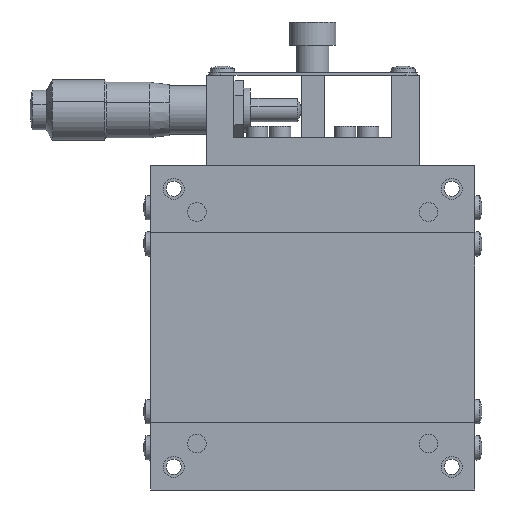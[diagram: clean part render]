
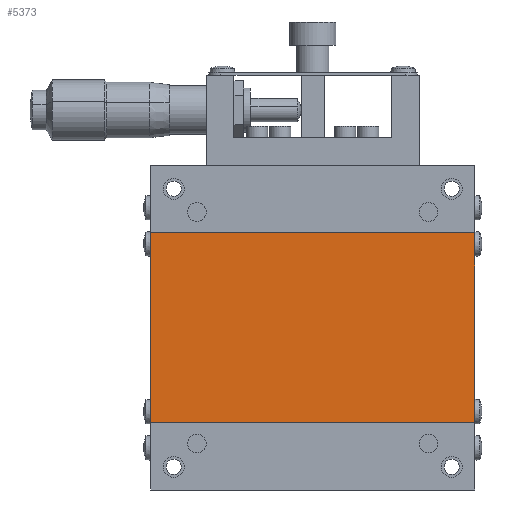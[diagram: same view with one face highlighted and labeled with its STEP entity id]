
A CAD part, front view. The second image highlights one B-rep face of the part: STEP entity #5373.
In plain terms, the highlighted planar face has unit normal (0, -1, 0).
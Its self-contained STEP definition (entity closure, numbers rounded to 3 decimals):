
#440 = CARTESIAN_POINT ( 'NONE',  ( -35., 0.3, -20.5 ) ) ;
#441 = DIRECTION ( 'NONE',  ( -1., 0., 0. ) ) ;
#442 = VECTOR ( 'NONE', #441, 1000. ) ;
#443 = CARTESIAN_POINT ( 'NONE',  ( 35., 0.3, -20.5 ) ) ;
#444 = LINE ( 'NONE', #443, #442 ) ;
#445 = DIRECTION ( 'NONE',  ( 0., 0., -1. ) ) ;
#446 = VECTOR ( 'NONE', #445, 1000. ) ;
#447 = CARTESIAN_POINT ( 'NONE',  ( -35., 0.3, -20.5 ) ) ;
#448 = LINE ( 'NONE', #447, #446 ) ;
#449 = DIRECTION ( 'NONE',  ( 0., 0., 1. ) ) ;
#450 = DIRECTION ( 'NONE',  ( 0., 1., 0. ) ) ;
#451 = CARTESIAN_POINT ( 'NONE',  ( 35., 0.3, -20.5 ) ) ;
#452 = AXIS2_PLACEMENT_3D ( 'NONE', #451, #450, #449 ) ;
#453 = PLANE ( 'NONE',  #452 ) ;
#454 = FACE_OUTER_BOUND ( 'NONE', #5381, .T. ) ;
#465 = DIRECTION ( 'NONE',  ( 0., 0., -1. ) ) ;
#466 = VECTOR ( 'NONE', #465, 1000. ) ;
#467 = CARTESIAN_POINT ( 'NONE',  ( 35., 0.3, -20.5 ) ) ;
#468 = LINE ( 'NONE', #467, #466 ) ;
#594 = CARTESIAN_POINT ( 'NONE',  ( -35., 0.3, 20.5 ) ) ;
#5169 = VERTEX_POINT ( 'NONE', #5440 ) ;
#5170 = ORIENTED_EDGE ( 'NONE', *, *, #5366, .F. ) ;
#5204 = EDGE_CURVE ( 'NONE', #5205, #5355, #5507, .T. ) ;
#5205 = VERTEX_POINT ( 'NONE', #5527 ) ;
#5355 = VERTEX_POINT ( 'NONE', #594 ) ;
#5366 = EDGE_CURVE ( 'NONE', #5205, #5169, #468, .T. ) ;
#5367 = ORIENTED_EDGE ( 'NONE', *, *, #5204, .T. ) ;
#5373 = ADVANCED_FACE ( 'NONE', ( #454 ), #453, .F. ) ;
#5381 = EDGE_LOOP ( 'NONE', ( #5385, #5383, #5170, #5367 ) ) ;
#5382 = EDGE_CURVE ( 'NONE', #5355, #5386, #448, .T. ) ;
#5383 = ORIENTED_EDGE ( 'NONE', *, *, #5384, .F. ) ;
#5384 = EDGE_CURVE ( 'NONE', #5169, #5386, #444, .T. ) ;
#5385 = ORIENTED_EDGE ( 'NONE', *, *, #5382, .T. ) ;
#5386 = VERTEX_POINT ( 'NONE', #440 ) ;
#5440 = CARTESIAN_POINT ( 'NONE',  ( 35., 0.3, -20.5 ) ) ;
#5472 = DIRECTION ( 'NONE',  ( -1., 0., 0. ) ) ;
#5473 = VECTOR ( 'NONE', #5472, 1000. ) ;
#5474 = CARTESIAN_POINT ( 'NONE',  ( 35., 0.3, 20.5 ) ) ;
#5507 = LINE ( 'NONE', #5474, #5473 ) ;
#5527 = CARTESIAN_POINT ( 'NONE',  ( 35., 0.3, 20.5 ) ) ;
